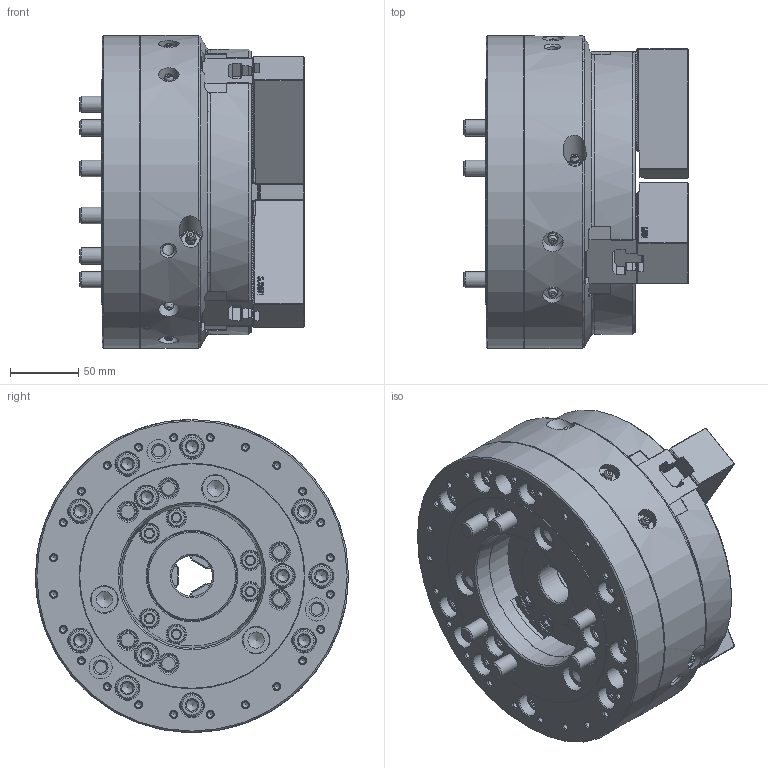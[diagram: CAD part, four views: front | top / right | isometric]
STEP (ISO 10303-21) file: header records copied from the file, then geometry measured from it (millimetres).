
FILE_DESCRIPTION (( 'STEP AP214' ), '1' );
FILE_NAME ('DT1_HOH-208_OUTSIDE_VIEW_HCL.STEP', '2024-05-09T06:47:05', ( '' ), ( '' ), 'SwSTEP 2.0', 'SolidWorks 2022', '' );
FILE_SCHEMA (( 'AUTOMOTIVE_DESIGN' ));
Length unit declared in the file: millimetre
Products named in the file (9): DT1_HOH-208_SOFTJAW^DT1_HOH-208_ﾃﾞﾌｫﾙﾄ; DT1_HOH-208_COVER^DT1_HOH-208_ﾃﾞﾌｫﾙﾄ; DT1_HOH-208_BASE^DT1_HOH-208_ﾃﾞﾌｫﾙﾄ; DT1_HOH-208_OUTSIDE_VIEW_HCL; DT1_HOH-208_DRAWNUT^DT1_HOH-208_ﾃﾞﾌｫﾙﾄ; DT1_HOH-208_M5x10^DT1_HOH-208_ﾃﾞﾌｫﾙﾄ; DT1_HOH-208_TNUT^DT1_HOH-208_ﾃﾞﾌｫﾙﾄ; DT1_HOH-208_M12x30^DT1_HOH-208_ﾃﾞﾌｫﾙﾄ; DT1_HOH-208_M12x110^DT1_HOH-208_ﾃﾞﾌｫﾙﾄ
Assembly tree (24 placements, depth 2):
  DT1_HOH-208_OUTSIDE_VIEW_HCL
    DT1_HOH-208_SOFTJAW^DT1_HOH-208_ﾃﾞﾌｫﾙﾄ  x3
    DT1_HOH-208_TNUT^DT1_HOH-208_ﾃﾞﾌｫﾙﾄ  x3
    DT1_HOH-208_DRAWNUT^DT1_HOH-208_ﾃﾞﾌｫﾙﾄ
    DT1_HOH-208_COVER^DT1_HOH-208_ﾃﾞﾌｫﾙﾄ
    DT1_HOH-208_BASE^DT1_HOH-208_ﾃﾞﾌｫﾙﾄ
    DT1_HOH-208_M5x10^DT1_HOH-208_ﾃﾞﾌｫﾙﾄ  x3
    DT1_HOH-208_M12x30^DT1_HOH-208_ﾃﾞﾌｫﾙﾄ  x6
    DT1_HOH-208_M12x110^DT1_HOH-208_ﾃﾞﾌｫﾙﾄ  x6
Bounding box: 165 x 230 x 230 mm (x, y, z)
Volume: 4103533.6 mm3; surface area: 448587.2 mm2
Topology: 24 solids, 30 shells, 4458 faces, 12370 edges, 8145 vertices
Faces by surface type: plane 3037, cylinder 585, bspline 454, cone 328, torus 39, sphere 15
Full cylindrical faces by diameter (mm): 2 x3, 4.2 x3, 4.3 x24, 5 x3, 5.5 x3, 8.6 x5, 9.5 x3, 10 x3, 10.2 x6, 12 x12, 13 x6, 13.27 x6, 13.5 x12, 14 x6, 15 x6, 16 x3, 16.27 x12, 17 x18, 18.27 x12, 19 x6, 19.46 x3, 20 x6, 30 x1, 52 x1, 56 x2, 61 x1, 64.8 x2, 66 x2, 72 x2, 103 x1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
Entity records: 106464 total; most frequent: CARTESIAN_POINT 33187, ORIENTED_EDGE 15830, DIRECTION 13010, EDGE_CURVE 7915, VECTOR 5762, LINE 5762, VERTEX_POINT 5391, AXIS2_PLACEMENT_3D 3624
